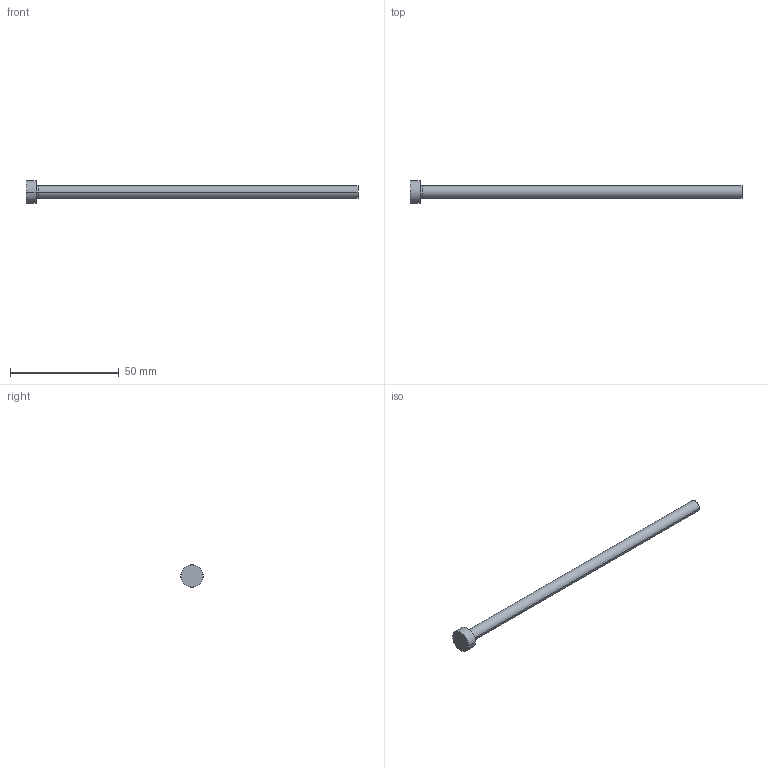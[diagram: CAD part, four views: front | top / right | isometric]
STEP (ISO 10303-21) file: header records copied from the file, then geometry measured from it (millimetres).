
FILE_DESCRIPTION (( 'STEP AP214' ), '1' );
FILE_NAME ('P15-6.STEP', '2020-03-11T18:29:52', ( '' ), ( '' ), 'SwSTEP 2.0', 'SolidWorks 2018', '' );
FILE_SCHEMA (( 'AUTOMOTIVE_DESIGN' ));
Length unit declared in the file: inch
Products named in the file (1): P15-6
Bounding box: 152.4 x 10.32 x 10.32 mm (x, y, z)
Volume: 3970.2 mm3; surface area: 2885.9 mm2
Topology: 1 solids, 1 shells, 13 faces, 24 edges, 14 vertices
Faces by surface type: cone 4, cylinder 4, plane 3, torus 2
Entity records: 366 total; most frequent: DIRECTION 68, CARTESIAN_POINT 52, ORIENTED_EDGE 48, AXIS2_PLACEMENT_3D 30, EDGE_CURVE 24, CIRCLE 16, VERTEX_POINT 14, EDGE_LOOP 14
